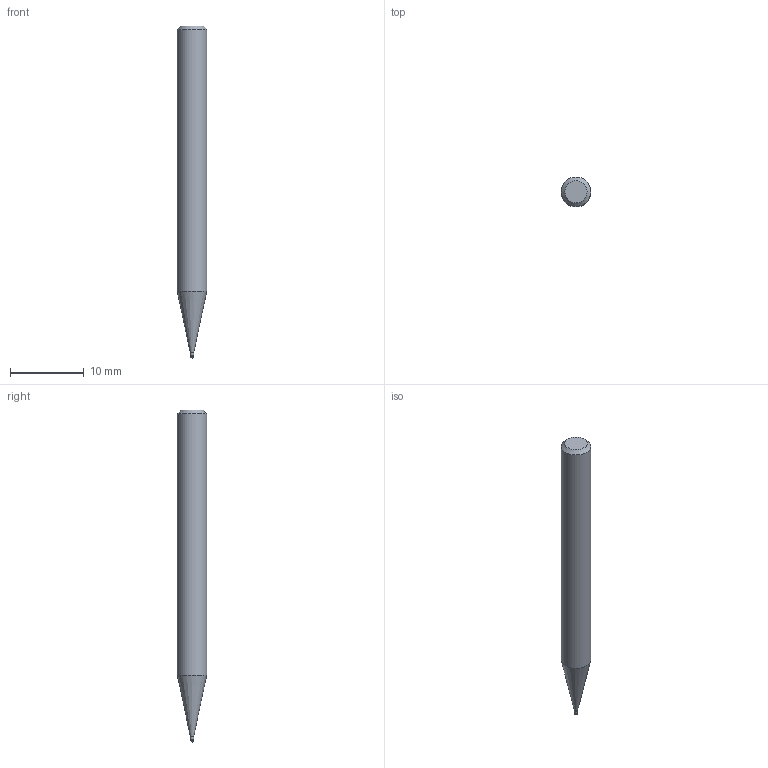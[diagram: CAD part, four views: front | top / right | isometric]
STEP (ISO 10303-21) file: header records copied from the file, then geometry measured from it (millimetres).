
FILE_DESCRIPTION((''),'2;1');
FILE_NAME('C:\Users\nsx150\AppData\Local\Temp\Mastercam 2021\ARV7HD45SN\TEMP.step','2023-06-13T16:33:16',(''),(''),'STEP Write','Mastercam 2021 ... CNC Software, Inc.','');
FILE_SCHEMA(('AUTOMOTIVE_DESIGN'));
Length unit declared in the file: millimetre
Products named in the file (1): None
Bounding box: 4 x 4 x 45 mm (x, y, z)
Volume: 489.5 mm3; surface area: 521.1 mm2
Topology: 2 solids, 2 shells, 9 faces, 14 edges, 8 vertices
Faces by surface type: plane 3, cylinder 3, cone 2, sphere 1
Full cylindrical faces by diameter (mm): 0.46 x1, 0.5 x1, 4 x1
Entity records: 211 total; most frequent: DIRECTION 36, CARTESIAN_POINT 25, AXIS2_PLACEMENT_3D 18, ORIENTED_EDGE 14, EDGE_LOOP 14, STYLED_ITEM 12, ADVANCED_FACE 9, FACE_BOUND 8
